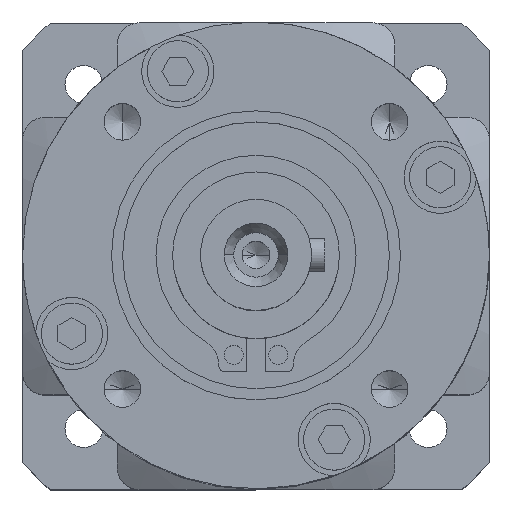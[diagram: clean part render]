
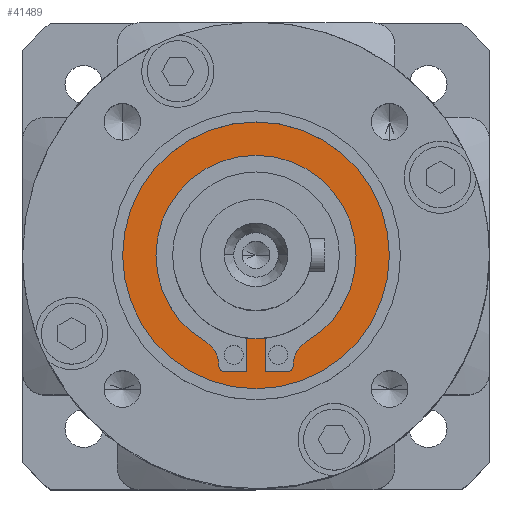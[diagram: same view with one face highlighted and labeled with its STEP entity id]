
A CAD part, top view. The second image highlights one B-rep face of the part: STEP entity #41489.
In plain terms, the highlighted planar face has unit normal (0, 0, 1).
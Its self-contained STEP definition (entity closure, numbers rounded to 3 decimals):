
#250 = CIRCLE ( 'NONE', #15273, 7.5 ) ;
#777 = EDGE_CURVE ( 'NONE', #16642, #29932, #9208, .T. ) ;
#2373 = LINE ( 'NONE', #26211, #38681 ) ;
#2573 = ORIENTED_EDGE ( 'NONE', *, *, #27202, .F. ) ;
#2635 = VECTOR ( 'NONE', #3521, 1000. ) ;
#2873 = CARTESIAN_POINT ( 'NONE',  ( -3.35, -9.952, -2.5 ) ) ;
#3335 = AXIS2_PLACEMENT_3D ( 'NONE', #37521, #16399, #40979 ) ;
#3521 = DIRECTION ( 'NONE',  ( 0., -1., 0. ) ) ;
#4135 = CIRCLE ( 'NONE', #40571, 0.5 ) ;
#5339 = CARTESIAN_POINT ( 'NONE',  ( 0.85, -7.452, -2.5 ) ) ;
#6163 = CARTESIAN_POINT ( 'NONE',  ( 3.35, -9.901, -2.5 ) ) ;
#6370 = CARTESIAN_POINT ( 'NONE',  ( -3.35, 0., -2.5 ) ) ;
#7589 = VERTEX_POINT ( 'NONE', #30299 ) ;
#7841 = CARTESIAN_POINT ( 'NONE',  ( 0., 0., -2.5 ) ) ;
#7895 = VERTEX_POINT ( 'NONE', #5339 ) ;
#8670 = CARTESIAN_POINT ( 'NONE',  ( -2.85, -9.952, -2.5 ) ) ;
#8792 = ORIENTED_EDGE ( 'NONE', *, *, #15650, .F. ) ;
#8948 = CARTESIAN_POINT ( 'NONE',  ( -2.85, -10.452, -2.5 ) ) ;
#9006 = VERTEX_POINT ( 'NONE', #9676 ) ;
#9111 = VERTEX_POINT ( 'NONE', #45506 ) ;
#9208 = CIRCLE ( 'NONE', #40583, 12. ) ;
#9253 = LINE ( 'NONE', #6370, #25749 ) ;
#9444 = DIRECTION ( 'NONE',  ( 0., 0., 1. ) ) ;
#9676 = CARTESIAN_POINT ( 'NONE',  ( -0.85, -10.452, -2.5 ) ) ;
#10044 = EDGE_CURVE ( 'NONE', #14811, #10972, #36540, .T. ) ;
#10122 = ORIENTED_EDGE ( 'NONE', *, *, #33952, .F. ) ;
#10627 = ORIENTED_EDGE ( 'NONE', *, *, #28959, .F. ) ;
#10782 = CARTESIAN_POINT ( 'NONE',  ( 2.85, -10.452, -2.5 ) ) ;
#10952 = CIRCLE ( 'NONE', #24078, 12. ) ;
#10972 = VERTEX_POINT ( 'NONE', #41668 ) ;
#11373 = DIRECTION ( 'NONE',  ( -1., 0., 0. ) ) ;
#11408 = EDGE_CURVE ( 'NONE', #17908, #19902, #38647, .T. ) ;
#12188 = DIRECTION ( 'NONE',  ( -1., 0., 0. ) ) ;
#13128 = CARTESIAN_POINT ( 'NONE',  ( 5.85, -9.901, -2.5 ) ) ;
#14152 = LINE ( 'NONE', #42017, #2635 ) ;
#14811 = VERTEX_POINT ( 'NONE', #10782 ) ;
#14890 = CARTESIAN_POINT ( 'NONE',  ( 0., 0., -2.5 ) ) ;
#15273 = AXIS2_PLACEMENT_3D ( 'NONE', #14890, #39487, #18429 ) ;
#15643 = CIRCLE ( 'NONE', #19753, 2.5 ) ;
#15650 = EDGE_CURVE ( 'NONE', #35021, #17908, #15643, .T. ) ;
#16088 = VERTEX_POINT ( 'NONE', #30486 ) ;
#16399 = DIRECTION ( 'NONE',  ( 0., 0., -1. ) ) ;
#16641 = DIRECTION ( 'NONE',  ( -1., 0., 0. ) ) ;
#16642 = VERTEX_POINT ( 'NONE', #37715 ) ;
#17620 = EDGE_CURVE ( 'NONE', #9006, #33934, #2373, .T. ) ;
#17680 = AXIS2_PLACEMENT_3D ( 'NONE', #7841, #32434, #11373 ) ;
#17908 = VERTEX_POINT ( 'NONE', #45446 ) ;
#18181 = FACE_OUTER_BOUND ( 'NONE', #32652, .T. ) ;
#18194 = VERTEX_POINT ( 'NONE', #8948 ) ;
#18398 = VECTOR ( 'NONE', #37418, 1000. ) ;
#18429 = DIRECTION ( 'NONE',  ( -1., 0., 0. ) ) ;
#19198 = CARTESIAN_POINT ( 'NONE',  ( 0., 0., -2.5 ) ) ;
#19210 = AXIS2_PLACEMENT_3D ( 'NONE', #30510, #9444, #34038 ) ;
#19436 = EDGE_LOOP ( 'NONE', ( #43291, #32673, #22120, #10122, #35662, #23174, #8792, #10627, #33121, #42984, #2573, #45460, #42515, #26513 ) ) ;
#19623 = DIRECTION ( 'NONE',  ( 0., 0., 1. ) ) ;
#19753 = AXIS2_PLACEMENT_3D ( 'NONE', #13128, #37767, #16641 ) ;
#19902 = VERTEX_POINT ( 'NONE', #34950 ) ;
#20331 = CARTESIAN_POINT ( 'NONE',  ( 0., -10.452, -2.5 ) ) ;
#20480 = DIRECTION ( 'NONE',  ( 0., 0., 1. ) ) ;
#20943 = DIRECTION ( 'NONE',  ( 0., 0., -1. ) ) ;
#20949 = CARTESIAN_POINT ( 'NONE',  ( 2.85, -9.952, -2.5 ) ) ;
#21750 = LINE ( 'NONE', #42906, #30028 ) ;
#22120 = ORIENTED_EDGE ( 'NONE', *, *, #28636, .F. ) ;
#22256 = EDGE_CURVE ( 'NONE', #7589, #14811, #35179, .T. ) ;
#22533 = EDGE_CURVE ( 'NONE', #29932, #16642, #10952, .T. ) ;
#22754 = DIRECTION ( 'NONE',  ( 1., 0., 0. ) ) ;
#23174 = ORIENTED_EDGE ( 'NONE', *, *, #11408, .F. ) ;
#23176 = CARTESIAN_POINT ( 'NONE',  ( -3.35, -9.901, -2.5 ) ) ;
#24078 = AXIS2_PLACEMENT_3D ( 'NONE', #19198, #43708, #22754 ) ;
#24296 = CARTESIAN_POINT ( 'NONE',  ( 12., 0., -2.5 ) ) ;
#24536 = DIRECTION ( 'NONE',  ( -1., 0., 0. ) ) ;
#25749 = VECTOR ( 'NONE', #27452, 1000. ) ;
#25802 = VECTOR ( 'NONE', #27427, 1000. ) ;
#26211 = CARTESIAN_POINT ( 'NONE',  ( -0.85, 0., -2.5 ) ) ;
#26513 = ORIENTED_EDGE ( 'NONE', *, *, #30711, .F. ) ;
#27035 = EDGE_CURVE ( 'NONE', #43141, #36974, #9253, .T. ) ;
#27202 = EDGE_CURVE ( 'NONE', #7895, #7589, #14152, .T. ) ;
#27427 = DIRECTION ( 'NONE',  ( 1., 0., 0. ) ) ;
#27452 = DIRECTION ( 'NONE',  ( 0., -1., 0. ) ) ;
#28082 = EDGE_CURVE ( 'NONE', #19902, #9111, #42641, .T. ) ;
#28157 = AXIS2_PLACEMENT_3D ( 'NONE', #41476, #20480, #44984 ) ;
#28636 = EDGE_CURVE ( 'NONE', #16088, #43141, #31723, .T. ) ;
#28959 = EDGE_CURVE ( 'NONE', #10972, #35021, #21750, .T. ) ;
#29763 = DIRECTION ( 'NONE',  ( 0., 1., 0. ) ) ;
#29932 = VERTEX_POINT ( 'NONE', #24296 ) ;
#30028 = VECTOR ( 'NONE', #39431, 1000. ) ;
#30135 = CARTESIAN_POINT ( 'NONE',  ( -0.85, -7.452, -2.5 ) ) ;
#30299 = CARTESIAN_POINT ( 'NONE',  ( 0.85, -10.452, -2.5 ) ) ;
#30486 = CARTESIAN_POINT ( 'NONE',  ( -4.578, -7.749, -2.5 ) ) ;
#30510 = CARTESIAN_POINT ( 'NONE',  ( 0., 0., -2.5 ) ) ;
#30587 = EDGE_CURVE ( 'NONE', #36974, #18194, #4135, .T. ) ;
#30711 = EDGE_CURVE ( 'NONE', #18194, #9006, #37151, .T. ) ;
#30999 = PLANE ( 'NONE',  #37934 ) ;
#31030 = EDGE_CURVE ( 'NONE', #33934, #7895, #250, .T. ) ;
#31667 = AXIS2_PLACEMENT_3D ( 'NONE', #20949, #45465, #24536 ) ;
#31723 = CIRCLE ( 'NONE', #3335, 2.5 ) ;
#32434 = DIRECTION ( 'NONE',  ( 0., 0., 1. ) ) ;
#32652 = EDGE_LOOP ( 'NONE', ( #37917, #35741 ) ) ;
#32673 = ORIENTED_EDGE ( 'NONE', *, *, #27035, .F. ) ;
#33121 = ORIENTED_EDGE ( 'NONE', *, *, #10044, .F. ) ;
#33265 = DIRECTION ( 'NONE',  ( 0., 0., 1. ) ) ;
#33934 = VERTEX_POINT ( 'NONE', #30135 ) ;
#33952 = EDGE_CURVE ( 'NONE', #9111, #16088, #40033, .T. ) ;
#34038 = DIRECTION ( 'NONE',  ( -1., 0., 0. ) ) ;
#34950 = CARTESIAN_POINT ( 'NONE',  ( 9., 0., -2.5 ) ) ;
#34991 = CARTESIAN_POINT ( 'NONE',  ( 0., 0., -2.5 ) ) ;
#35021 = VERTEX_POINT ( 'NONE', #6163 ) ;
#35179 = LINE ( 'NONE', #20331, #25802 ) ;
#35662 = ORIENTED_EDGE ( 'NONE', *, *, #28082, .F. ) ;
#35741 = ORIENTED_EDGE ( 'NONE', *, *, #777, .T. ) ;
#36540 = CIRCLE ( 'NONE', #31667, 0.5 ) ;
#36974 = VERTEX_POINT ( 'NONE', #2873 ) ;
#37151 = LINE ( 'NONE', #44214, #18398 ) ;
#37418 = DIRECTION ( 'NONE',  ( 1., 0., 0. ) ) ;
#37521 = CARTESIAN_POINT ( 'NONE',  ( -5.85, -9.901, -2.5 ) ) ;
#37715 = CARTESIAN_POINT ( 'NONE',  ( -12., 0., -2.5 ) ) ;
#37767 = DIRECTION ( 'NONE',  ( 0., 0., -1. ) ) ;
#37917 = ORIENTED_EDGE ( 'NONE', *, *, #22533, .T. ) ;
#37934 = AXIS2_PLACEMENT_3D ( 'NONE', #34991, #20943, #45461 ) ;
#38647 = CIRCLE ( 'NONE', #28157, 9. ) ;
#38681 = VECTOR ( 'NONE', #29763, 1000. ) ;
#39431 = DIRECTION ( 'NONE',  ( 0., 1., 0. ) ) ;
#39487 = DIRECTION ( 'NONE',  ( 0., 0., 1. ) ) ;
#40033 = CIRCLE ( 'NONE', #17680, 9. ) ;
#40571 = AXIS2_PLACEMENT_3D ( 'NONE', #8670, #33265, #12188 ) ;
#40583 = AXIS2_PLACEMENT_3D ( 'NONE', #40654, #19623, #44134 ) ;
#40654 = CARTESIAN_POINT ( 'NONE',  ( 0., 0., -2.5 ) ) ;
#40979 = DIRECTION ( 'NONE',  ( -1., 0., 0. ) ) ;
#41476 = CARTESIAN_POINT ( 'NONE',  ( 0., 0., -2.5 ) ) ;
#41489 = ADVANCED_FACE ( 'NONE', ( #18181, #45060 ), #30999, .F. ) ;
#41668 = CARTESIAN_POINT ( 'NONE',  ( 3.35, -9.952, -2.5 ) ) ;
#42017 = CARTESIAN_POINT ( 'NONE',  ( 0.85, 0., -2.5 ) ) ;
#42515 = ORIENTED_EDGE ( 'NONE', *, *, #17620, .F. ) ;
#42641 = CIRCLE ( 'NONE', #19210, 9. ) ;
#42906 = CARTESIAN_POINT ( 'NONE',  ( 3.35, 0., -2.5 ) ) ;
#42984 = ORIENTED_EDGE ( 'NONE', *, *, #22256, .F. ) ;
#43141 = VERTEX_POINT ( 'NONE', #23176 ) ;
#43291 = ORIENTED_EDGE ( 'NONE', *, *, #30587, .F. ) ;
#43708 = DIRECTION ( 'NONE',  ( 0., 0., 1. ) ) ;
#44134 = DIRECTION ( 'NONE',  ( 1., 0., 0. ) ) ;
#44214 = CARTESIAN_POINT ( 'NONE',  ( 0., -10.452, -2.5 ) ) ;
#44984 = DIRECTION ( 'NONE',  ( -1., 0., 0. ) ) ;
#45060 = FACE_BOUND ( 'NONE', #19436, .T. ) ;
#45446 = CARTESIAN_POINT ( 'NONE',  ( 4.578, -7.749, -2.5 ) ) ;
#45460 = ORIENTED_EDGE ( 'NONE', *, *, #31030, .F. ) ;
#45461 = DIRECTION ( 'NONE',  ( -1., 0., 0. ) ) ;
#45465 = DIRECTION ( 'NONE',  ( 0., 0., 1. ) ) ;
#45506 = CARTESIAN_POINT ( 'NONE',  ( -9., 0., -2.5 ) ) ;
